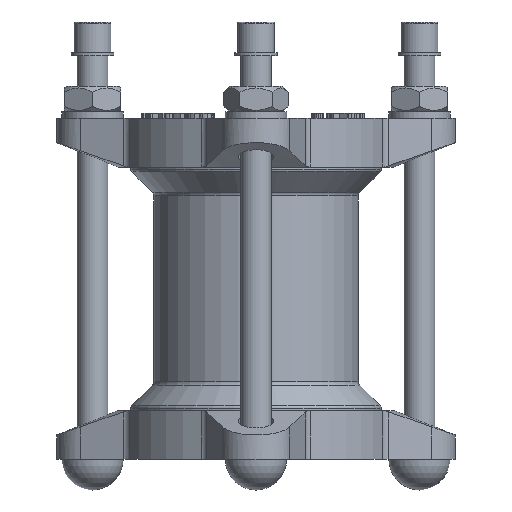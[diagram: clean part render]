
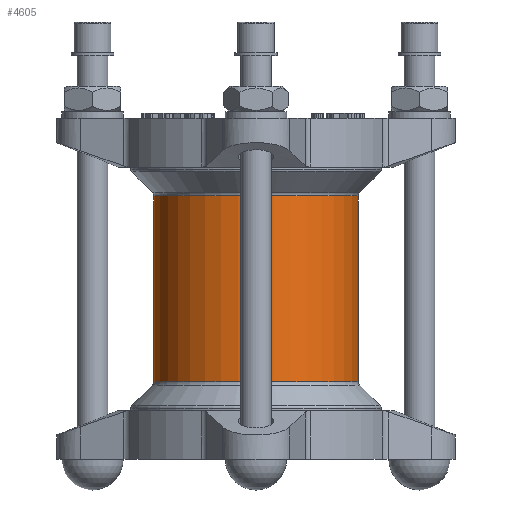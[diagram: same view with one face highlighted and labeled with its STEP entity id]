
A CAD part, front view. The second image highlights one B-rep face of the part: STEP entity #4605.
In plain terms, the highlighted cylindrical face has radius 40 mm (diameter 80 mm), a full revolution.
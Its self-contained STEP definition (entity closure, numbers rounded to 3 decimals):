
#4605=ADVANCED_FACE('',(#8611,#8613),#8615,.T.);
#8611=FACE_OUTER_BOUND('',#8612,.T.);
#8612=EDGE_LOOP('',(#12843));
#8613=FACE_OUTER_BOUND('',#8614,.T.);
#8614=EDGE_LOOP('',(#12844));
#8615=CYLINDRICAL_SURFACE('',#8616,40.);
#8616=AXIS2_PLACEMENT_3D('',#8617,#8618,#8619);
#8617=CARTESIAN_POINT('',(0.,0.,37.172));
#8618=DIRECTION('',(0.,0.,-1.));
#8619=DIRECTION('',(0.,1.,0.));
#12843=ORIENTED_EDGE('',*,*,#14690,.T.);
#12844=ORIENTED_EDGE('',*,*,#14691,.F.);
#14690=EDGE_CURVE('',#17117,#17117,#17118,.T.);
#14691=EDGE_CURVE('',#17119,#17119,#17120,.T.);
#17117=VERTEX_POINT('',#25107);
#17118=CIRCLE('',#25108,40.);
#17119=VERTEX_POINT('',#25112);
#17120=CIRCLE('',#25113,40.);
#25107=CARTESIAN_POINT('',(0.,40.,36.343));
#25108=AXIS2_PLACEMENT_3D('',#25109,#25110,#25111);
#25109=CARTESIAN_POINT('',(0.,0.,36.343));
#25110=DIRECTION('',(0.,0.,-1.));
#25111=DIRECTION('',(0.,1.,0.));
#25112=CARTESIAN_POINT('',(0.,40.,-36.343));
#25113=AXIS2_PLACEMENT_3D('',#25114,#25115,#25116);
#25114=CARTESIAN_POINT('',(0.,0.,-36.343));
#25115=DIRECTION('',(0.,0.,-1.));
#25116=DIRECTION('',(0.,1.,0.));
